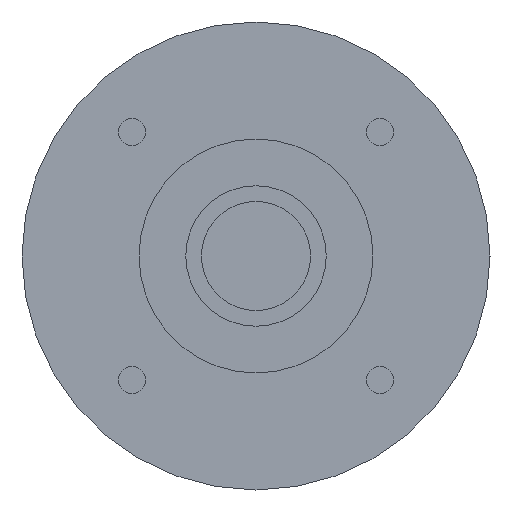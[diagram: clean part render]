
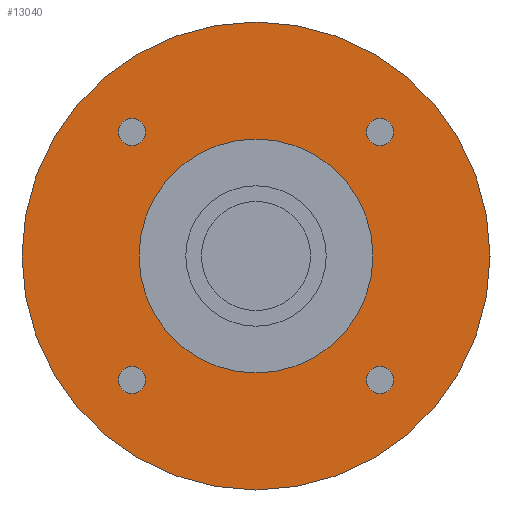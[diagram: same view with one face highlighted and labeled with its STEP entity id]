
A CAD part, left-side view. The second image highlights one B-rep face of the part: STEP entity #13040.
In plain terms, the highlighted planar face has unit normal (-1, 0, 0) as drawn and (0, 0, -1) by its records, which use the part's own axes.
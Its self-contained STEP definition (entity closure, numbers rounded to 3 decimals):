
#8700=CARTESIAN_POINT('',(-30.,0.,-39.));
#8710=VERTEX_POINT('',#8700);
#8910=CARTESIAN_POINT('',(30.,0.,-39.));
#8920=VERTEX_POINT('',#8910);
#8950=CARTESIAN_POINT('',(0.,0.,-39.
));
#8960=DIRECTION('',(0.,0.,1.));
#8970=DIRECTION('',(1.,0.,0.));
#8980=AXIS2_PLACEMENT_3D('',#8950,#8960,#8970);
#8990=CIRCLE('',#8980,30.);
#9000=CARTESIAN_POINT('',(0.,-30.,-39.));
#9010=VERTEX_POINT('',#9000);
#9020=EDGE_CURVE('',#9010,#8920,#8990,.T.);
#9040=EDGE_CURVE('',#8710,#9010,#8990,.T.);
#12010=CARTESIAN_POINT('',(-15.91,-14.16,-39.));
#12020=VERTEX_POINT('',#12010);
#12050=CARTESIAN_POINT('',(-15.91,-15.91,-39.));
#12060=DIRECTION('',(0.,0.,-1.));
#12070=DIRECTION('',(0.,-1.,0.));
#12080=AXIS2_PLACEMENT_3D('',#12050,#12060,#12070);
#12090=CIRCLE('',#12080,1.75);
#12100=CARTESIAN_POINT('',(-15.91,-17.66,-39.));
#12110=VERTEX_POINT('',#12100);
#12120=EDGE_CURVE('',#12110,#12020,#12090,.T.);
#12240=CARTESIAN_POINT('',(0.,0.,
-39.));
#12250=DIRECTION('',(0.,0.,-1.));
#12260=DIRECTION('',(1.,0.,0.));
#12270=AXIS2_PLACEMENT_3D('',#12240,#12250,#12260);
#12280=PLANE('',#12270);
#12290=CARTESIAN_POINT('',(15.91,15.91,-39.));
#12300=DIRECTION('',(0.,0.,-1.));
#12310=DIRECTION('',(0.,1.,0.));
#12320=AXIS2_PLACEMENT_3D('',#12290,#12300,#12310);
#12330=CIRCLE('',#12320,1.75);
#12340=CARTESIAN_POINT('',(15.91,17.66,-39.));
#12350=VERTEX_POINT('',#12340);
#12360=CARTESIAN_POINT('',(15.91,14.16,-39.));
#12370=VERTEX_POINT('',#12360);
#12380=EDGE_CURVE('',#12350,#12370,#12330,.T.);
#12390=ORIENTED_EDGE('',*,*,#12380,.F.);
#12400=EDGE_CURVE('',#12370,#12350,#12330,.T.);
#12410=ORIENTED_EDGE('',*,*,#12400,.F.);
#12420=EDGE_LOOP('',(#12410,#12390));
#12430=FACE_BOUND('',#12420,.T.);
#12440=CARTESIAN_POINT('',(-15.91,15.91,-39.));
#12450=DIRECTION('',(0.,0.,-1.));
#12460=DIRECTION('',(-1.,0.,0.));
#12470=AXIS2_PLACEMENT_3D('',#12440,#12450,#12460);
#12480=CIRCLE('',#12470,1.75);
#12490=CARTESIAN_POINT('',(-17.66,15.91,-39.));
#12500=VERTEX_POINT('',#12490);
#12510=CARTESIAN_POINT('',(-14.16,15.91,-39.));
#12520=VERTEX_POINT('',#12510);
#12530=EDGE_CURVE('',#12500,#12520,#12480,.T.);
#12540=ORIENTED_EDGE('',*,*,#12530,.F.);
#12550=EDGE_CURVE('',#12520,#12500,#12480,.T.);
#12560=ORIENTED_EDGE('',*,*,#12550,.F.);
#12570=EDGE_LOOP('',(#12560,#12540));
#12580=FACE_BOUND('',#12570,.T.);
#12590=ORIENTED_EDGE('',*,*,#12120,.F.);
#12600=EDGE_CURVE('',#12020,#12110,#12090,.T.);
#12610=ORIENTED_EDGE('',*,*,#12600,.F.);
#12620=EDGE_LOOP('',(#12610,#12590));
#12630=FACE_BOUND('',#12620,.T.);
#12640=CARTESIAN_POINT('',(0.,0.,
-39.));
#12650=DIRECTION('',(0.,0.,1.));
#12660=DIRECTION('',(0.,1.,0.));
#12670=AXIS2_PLACEMENT_3D('',#12640,#12650,#12660);
#12680=CIRCLE('',#12670,15.);
#12690=CARTESIAN_POINT('',(-15.,0.,-39.));
#12700=VERTEX_POINT('',#12690);
#12710=CARTESIAN_POINT('',(15.,0.,-39.));
#12720=VERTEX_POINT('',#12710);
#12730=EDGE_CURVE('',#12700,#12720,#12680,.T.);
#12740=ORIENTED_EDGE('',*,*,#12730,.T.);
#12750=CARTESIAN_POINT('',(0.,15.,-39.));
#12760=VERTEX_POINT('',#12750);
#12770=EDGE_CURVE('',#12760,#12700,#12680,.T.);
#12780=ORIENTED_EDGE('',*,*,#12770,.T.);
#12790=EDGE_CURVE('',#12720,#12760,#12680,.T.);
#12800=ORIENTED_EDGE('',*,*,#12790,.T.);
#12810=EDGE_LOOP('',(#12800,#12780,#12740));
#12820=FACE_BOUND('',#12810,.T.);
#12830=CARTESIAN_POINT('',(15.91,-15.91,-39.));
#12840=DIRECTION('',(0.,0.,-1.));
#12850=DIRECTION('',(1.,0.,0.));
#12860=AXIS2_PLACEMENT_3D('',#12830,#12840,#12850);
#12870=CIRCLE('',#12860,1.75);
#12880=CARTESIAN_POINT('',(17.66,-15.91,-39.));
#12890=VERTEX_POINT('',#12880);
#12900=CARTESIAN_POINT('',(14.16,-15.91,-39.));
#12910=VERTEX_POINT('',#12900);
#12920=EDGE_CURVE('',#12890,#12910,#12870,.T.);
#12930=ORIENTED_EDGE('',*,*,#12920,.F.);
#12940=EDGE_CURVE('',#12910,#12890,#12870,.T.);
#12950=ORIENTED_EDGE('',*,*,#12940,.F.);
#12960=EDGE_LOOP('',(#12950,#12930));
#12970=FACE_BOUND('',#12960,.T.);
#12980=ORIENTED_EDGE('',*,*,#9020,.F.);
#12990=EDGE_CURVE('',#8920,#8710,#8990,.T.);
#13000=ORIENTED_EDGE('',*,*,#12990,.F.);
#13010=ORIENTED_EDGE('',*,*,#9040,.F.);
#13020=EDGE_LOOP('',(#13010,#13000,#12980));
#13030=FACE_OUTER_BOUND('',#13020,.T.);
#13040=ADVANCED_FACE('',(#12430,#12580,#12630,#12820,#12970,#13030),
#12280,.T.);
